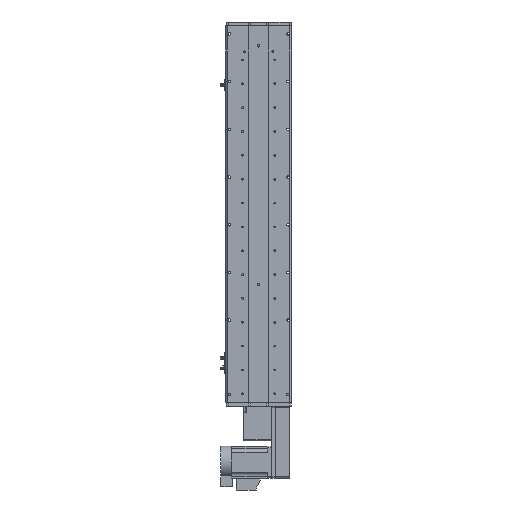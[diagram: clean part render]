
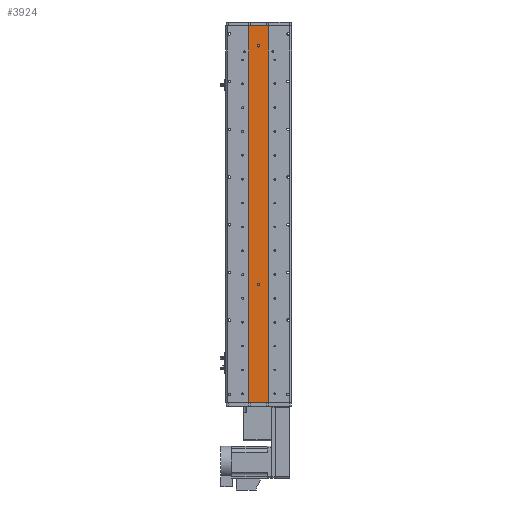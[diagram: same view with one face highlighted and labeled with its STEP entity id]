
A CAD part, front view. The second image highlights one B-rep face of the part: STEP entity #3924.
In plain terms, the highlighted planar face has unit normal (0, -1, 0).
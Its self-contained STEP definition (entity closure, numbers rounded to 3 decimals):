
#1141 = DIRECTION ( 'NONE',  ( 1., 0., 0. ) ) ;
#2003 = CIRCLE ( 'NONE', #62113, 3. ) ;
#2696 = CARTESIAN_POINT ( 'NONE',  ( 0., 1., -176.5 ) ) ;
#3924 = ADVANCED_FACE ( 'NONE', ( #28150, #52620, #26583 ), #28456, .F. ) ;
#5854 = CARTESIAN_POINT ( 'NONE',  ( 0., 1., 423.5 ) ) ;
#7292 = VECTOR ( 'NONE', #50897, 1000. ) ;
#7611 = DIRECTION ( 'NONE',  ( 0., 0., -1. ) ) ;
#8104 = DIRECTION ( 'NONE',  ( 0., -1., 0. ) ) ;
#9018 = CARTESIAN_POINT ( 'NONE',  ( 25., 1., 473.5 ) ) ;
#10518 = EDGE_CURVE ( 'NONE', #55782, #13812, #23874, .T. ) ;
#10696 = DIRECTION ( 'NONE',  ( 0., 0., -1. ) ) ;
#12264 = LINE ( 'NONE', #50055, #23687 ) ;
#12617 = VERTEX_POINT ( 'NONE', #18388 ) ;
#13667 = VERTEX_POINT ( 'NONE', #47040 ) ;
#13812 = VERTEX_POINT ( 'NONE', #43619 ) ;
#16467 = CARTESIAN_POINT ( 'NONE',  ( -25., 1., 473.5 ) ) ;
#16987 = ORIENTED_EDGE ( 'NONE', *, *, #44417, .F. ) ;
#17933 = DIRECTION ( 'NONE',  ( 0., -1., 0. ) ) ;
#18029 = CARTESIAN_POINT ( 'NONE',  ( 0., 1., -179.5 ) ) ;
#18094 = ORIENTED_EDGE ( 'NONE', *, *, #10518, .F. ) ;
#18388 = CARTESIAN_POINT ( 'NONE',  ( -25., 1., -473.5 ) ) ;
#18491 = EDGE_CURVE ( 'NONE', #43230, #59592, #12264, .T. ) ;
#18824 = DIRECTION ( 'NONE',  ( 0., 0., 1. ) ) ;
#20773 = DIRECTION ( 'NONE',  ( 0., 0., -1. ) ) ;
#23055 = CARTESIAN_POINT ( 'NONE',  ( 0., 1., 420.5 ) ) ;
#23687 = VECTOR ( 'NONE', #20773, 1000. ) ;
#23725 = EDGE_CURVE ( 'NONE', #13667, #37411, #49599, .T. ) ;
#23833 = VECTOR ( 'NONE', #1141, 1000. ) ;
#23874 = CIRCLE ( 'NONE', #41298, 3. ) ;
#26199 = VECTOR ( 'NONE', #62001, 1000. ) ;
#26583 = FACE_OUTER_BOUND ( 'NONE', #54701, .T. ) ;
#28150 = FACE_BOUND ( 'NONE', #62684, .T. ) ;
#28456 = PLANE ( 'NONE',  #60552 ) ;
#30334 = EDGE_LOOP ( 'NONE', ( #16987, #42485 ) ) ;
#30393 = CARTESIAN_POINT ( 'NONE',  ( 25., 1., -473.5 ) ) ;
#31683 = EDGE_CURVE ( 'NONE', #12617, #59592, #49868, .T. ) ;
#36515 = ORIENTED_EDGE ( 'NONE', *, *, #48726, .T. ) ;
#36809 = DIRECTION ( 'NONE',  ( 0., -1., 0. ) ) ;
#36947 = ORIENTED_EDGE ( 'NONE', *, *, #54037, .F. ) ;
#37106 = AXIS2_PLACEMENT_3D ( 'NONE', #37349, #8104, #42298 ) ;
#37349 = CARTESIAN_POINT ( 'NONE',  ( 0., 1., -176.5 ) ) ;
#37411 = VERTEX_POINT ( 'NONE', #18029 ) ;
#38251 = AXIS2_PLACEMENT_3D ( 'NONE', #2696, #36809, #7611 ) ;
#39230 = LINE ( 'NONE', #42438, #26199 ) ;
#40024 = DIRECTION ( 'NONE',  ( 0., -1., 0. ) ) ;
#41298 = AXIS2_PLACEMENT_3D ( 'NONE', #5854, #40024, #10696 ) ;
#42298 = DIRECTION ( 'NONE',  ( 0., 0., -1. ) ) ;
#42438 = CARTESIAN_POINT ( 'NONE',  ( 25., 1., 473.5 ) ) ;
#42485 = ORIENTED_EDGE ( 'NONE', *, *, #23725, .F. ) ;
#43230 = VERTEX_POINT ( 'NONE', #50976 ) ;
#43619 = CARTESIAN_POINT ( 'NONE',  ( 0., 1., 426.5 ) ) ;
#44417 = EDGE_CURVE ( 'NONE', #37411, #13667, #57551, .T. ) ;
#45657 = ORIENTED_EDGE ( 'NONE', *, *, #55247, .F. ) ;
#47040 = CARTESIAN_POINT ( 'NONE',  ( 0., 1., -173.5 ) ) ;
#47236 = CARTESIAN_POINT ( 'NONE',  ( 0., 1., 423.5 ) ) ;
#47917 = ORIENTED_EDGE ( 'NONE', *, *, #31683, .T. ) ;
#48106 = DIRECTION ( 'NONE',  ( 0., 1., 0. ) ) ;
#48726 = EDGE_CURVE ( 'NONE', #52788, #12617, #57712, .T. ) ;
#49599 = CIRCLE ( 'NONE', #38251, 3. ) ;
#49868 = LINE ( 'NONE', #30393, #23833 ) ;
#50055 = CARTESIAN_POINT ( 'NONE',  ( 25., 1., 473.5 ) ) ;
#50897 = DIRECTION ( 'NONE',  ( 0., 0., -1. ) ) ;
#50976 = CARTESIAN_POINT ( 'NONE',  ( 25., 1., 473.5 ) ) ;
#52145 = DIRECTION ( 'NONE',  ( 0., 0., -1. ) ) ;
#52475 = CARTESIAN_POINT ( 'NONE',  ( 25., 1., -473.5 ) ) ;
#52620 = FACE_BOUND ( 'NONE', #30334, .T. ) ;
#52788 = VERTEX_POINT ( 'NONE', #56374 ) ;
#54037 = EDGE_CURVE ( 'NONE', #13812, #55782, #2003, .T. ) ;
#54701 = EDGE_LOOP ( 'NONE', ( #47917, #59158, #45657, #36515 ) ) ;
#55247 = EDGE_CURVE ( 'NONE', #52788, #43230, #39230, .T. ) ;
#55782 = VERTEX_POINT ( 'NONE', #23055 ) ;
#56374 = CARTESIAN_POINT ( 'NONE',  ( -25., 1., 473.5 ) ) ;
#57551 = CIRCLE ( 'NONE', #37106, 3. ) ;
#57712 = LINE ( 'NONE', #16467, #7292 ) ;
#59158 = ORIENTED_EDGE ( 'NONE', *, *, #18491, .F. ) ;
#59592 = VERTEX_POINT ( 'NONE', #52475 ) ;
#60552 = AXIS2_PLACEMENT_3D ( 'NONE', #9018, #48106, #18824 ) ;
#62001 = DIRECTION ( 'NONE',  ( 1., 0., 0. ) ) ;
#62113 = AXIS2_PLACEMENT_3D ( 'NONE', #47236, #17933, #52145 ) ;
#62684 = EDGE_LOOP ( 'NONE', ( #18094, #36947 ) ) ;
